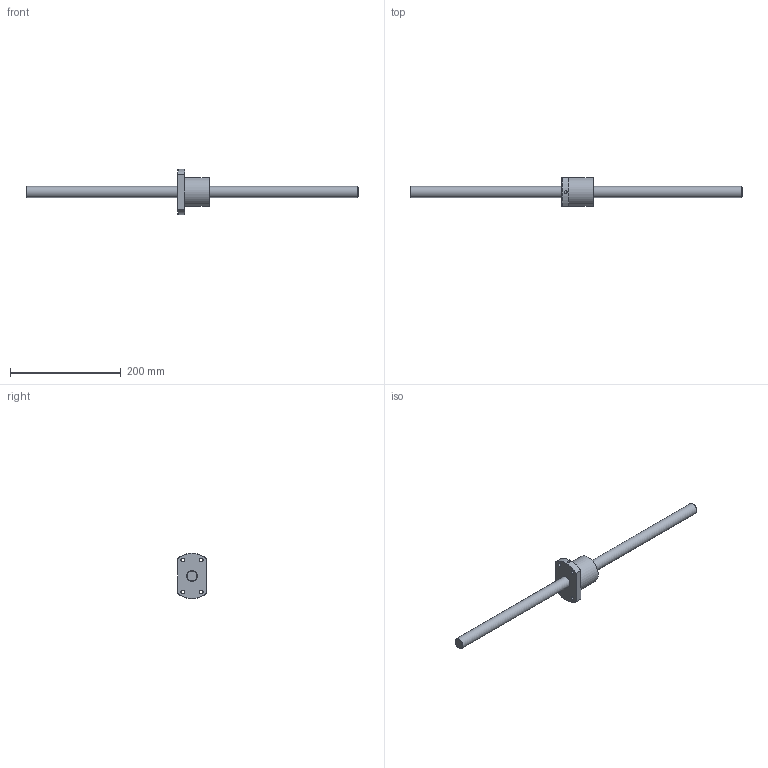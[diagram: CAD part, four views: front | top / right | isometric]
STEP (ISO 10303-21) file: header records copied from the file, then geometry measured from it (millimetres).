
FILE_DESCRIPTION((''),'2;1');
FILE_NAME('D:\製品 (図面)\カタログ用3D\ネジ関連\STEP形式\RBSMA\RBSMA2010-0600.stp','2010-06-02T14:43:28',('Tsuchiya'),(''),'Autodesk Inventor 10','Autodesk Inventor 10','');
FILE_SCHEMA(('AUTOMOTIVE_DESIGN { 1 0 10303 214 1 1 1 1 }'));
Length unit declared in the file: millimetre
Products named in the file (3): RBSMA2010-0600; RBSMA2010-06001; RBSMA2010-06002
Assembly tree (2 placements, depth 2):
  RBSMA2010-0600
    RBSMA2010-06001
    RBSMA2010-06002
Bounding box: 600 x 52 x 82 mm (x, y, z)
Volume: 311309.1 mm3; surface area: 60393.6 mm2
Topology: 2 solids, 2 shells, 25 faces, 63 edges, 42 vertices
Faces by surface type: cylinder 9, plane 8, cone 7, bspline 1
Full cylindrical faces by diameter (mm): 6.6 x4, 20 x2, 52 x1
Entity records: 885 total; most frequent: CARTESIAN_POINT 270, DIRECTION 120, ORIENTED_EDGE 94, AXIS2_PLACEMENT_3D 55, EDGE_LOOP 48, EDGE_CURVE 47, VERTEX_POINT 37, CIRCLE 26
